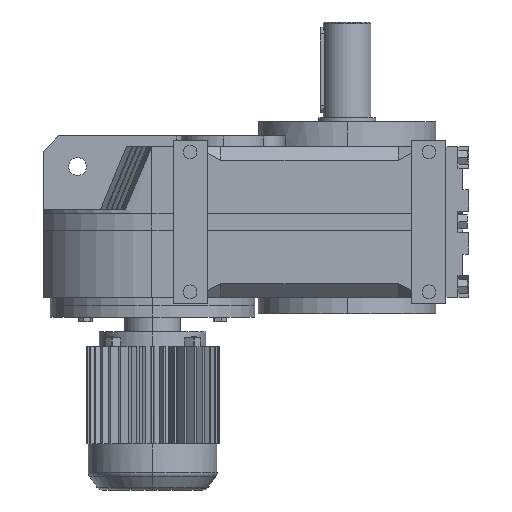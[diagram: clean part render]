
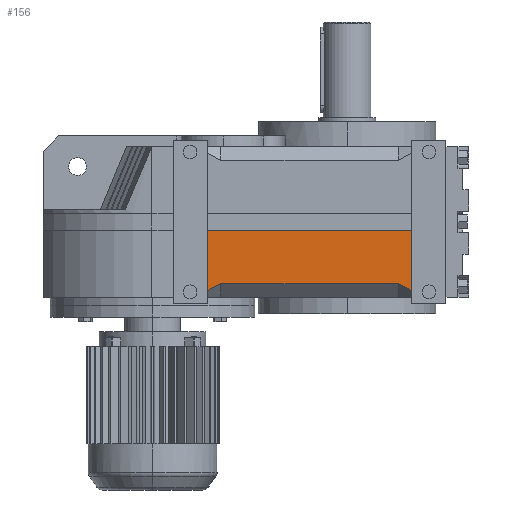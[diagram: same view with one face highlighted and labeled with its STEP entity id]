
A CAD part, left-side view. The second image highlights one B-rep face of the part: STEP entity #156.
In plain terms, the highlighted planar face has unit normal (-1, 0, 0).
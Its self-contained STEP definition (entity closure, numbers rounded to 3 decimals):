
#51 = PLANE('',#52);
#52 = AXIS2_PLACEMENT_3D('',#53,#54,#55);
#53 = CARTESIAN_POINT('',(-166.747,-80.,-1.347));
#54 = DIRECTION('',(0.664,0.342,0.664));
#55 = DIRECTION('',(0.707,0.,-0.707)
  );
#76 = VERTEX_POINT('',#77);
#77 = CARTESIAN_POINT('',(-190.4,-100.,32.6));
#91 = PLANE('',#92);
#92 = AXIS2_PLACEMENT_3D('',#93,#94,#95);
#93 = CARTESIAN_POINT('',(-190.4,-463.,32.6));
#94 = DIRECTION('',(0.707,0.,0.707));
#95 = DIRECTION('',(0.707,0.,-0.707));
#103 = EDGE_CURVE('',#104,#76,#106,.T.);
#104 = VERTEX_POINT('',#105);
#105 = CARTESIAN_POINT('',(-190.4,-80.,22.305));
#106 = SURFACE_CURVE('',#107,(#111,#118),.PCURVE_S1.);
#107 = LINE('',#108,#109);
#108 = CARTESIAN_POINT('',(-190.4,-468.678,222.37));
#109 = VECTOR('',#110,1.);
#110 = DIRECTION('',(0.,-0.889,0.458));
#111 = PCURVE('',#51,#112);
#112 = DEFINITIONAL_REPRESENTATION('',(#113),#117);
#113 = LINE('',#114,#115);
#114 = CARTESIAN_POINT('',(-174.917,-413.622));
#115 = VECTOR('',#116,1.);
#116 = DIRECTION('',(-0.324,-0.946));
#117 = ( GEOMETRIC_REPRESENTATION_CONTEXT(2) 
PARAMETRIC_REPRESENTATION_CONTEXT() REPRESENTATION_CONTEXT('2D SPACE',''
  ) );
#118 = PCURVE('',#119,#124);
#119 = PLANE('',#120);
#120 = AXIS2_PLACEMENT_3D('',#121,#122,#123);
#121 = CARTESIAN_POINT('',(-190.4,-463.,233.4));
#122 = DIRECTION('',(1.,0.,0.));
#123 = DIRECTION('',(0.,0.,-1.));
#124 = DEFINITIONAL_REPRESENTATION('',(#125),#129);
#125 = LINE('',#126,#127);
#126 = CARTESIAN_POINT('',(11.03,-5.678));
#127 = VECTOR('',#128,1.);
#128 = DIRECTION('',(-0.458,-0.889));
#129 = ( GEOMETRIC_REPRESENTATION_CONTEXT(2) 
PARAMETRIC_REPRESENTATION_CONTEXT() REPRESENTATION_CONTEXT('2D SPACE',''
  ) );
#145 = PLANE('',#146);
#146 = AXIS2_PLACEMENT_3D('',#147,#148,#149);
#147 = CARTESIAN_POINT('',(-162.4,-80.,3.));
#148 = DIRECTION('',(0.,-1.,0.));
#149 = DIRECTION('',(0.,0.,-1.));
#156 = ADVANCED_FACE('',(#157),#119,.F.);
#157 = FACE_BOUND('',#158,.T.);
#158 = EDGE_LOOP('',(#159,#182,#183,#206,#234,#262));
#159 = ORIENTED_EDGE('',*,*,#160,.T.);
#160 = EDGE_CURVE('',#161,#104,#163,.T.);
#161 = VERTEX_POINT('',#162);
#162 = CARTESIAN_POINT('',(-190.4,-80.,111.));
#163 = SURFACE_CURVE('',#164,(#168,#175),.PCURVE_S1.);
#164 = LINE('',#165,#166);
#165 = CARTESIAN_POINT('',(-190.4,-80.,233.4));
#166 = VECTOR('',#167,1.);
#167 = DIRECTION('',(0.,0.,-1.));
#168 = PCURVE('',#119,#169);
#169 = DEFINITIONAL_REPRESENTATION('',(#170),#174);
#170 = LINE('',#171,#172);
#171 = CARTESIAN_POINT('',(0.,383.));
#172 = VECTOR('',#173,1.);
#173 = DIRECTION('',(1.,0.));
#174 = ( GEOMETRIC_REPRESENTATION_CONTEXT(2) 
PARAMETRIC_REPRESENTATION_CONTEXT() REPRESENTATION_CONTEXT('2D SPACE',''
  ) );
#175 = PCURVE('',#145,#176);
#176 = DEFINITIONAL_REPRESENTATION('',(#177),#181);
#177 = LINE('',#178,#179);
#178 = CARTESIAN_POINT('',(-230.4,-28.));
#179 = VECTOR('',#180,1.);
#180 = DIRECTION('',(1.,0.));
#181 = ( GEOMETRIC_REPRESENTATION_CONTEXT(2) 
PARAMETRIC_REPRESENTATION_CONTEXT() REPRESENTATION_CONTEXT('2D SPACE',''
  ) );
#182 = ORIENTED_EDGE('',*,*,#103,.T.);
#183 = ORIENTED_EDGE('',*,*,#184,.T.);
#184 = EDGE_CURVE('',#76,#185,#187,.T.);
#185 = VERTEX_POINT('',#186);
#186 = CARTESIAN_POINT('',(-190.4,-360.,32.6));
#187 = SURFACE_CURVE('',#188,(#192,#199),.PCURVE_S1.);
#188 = LINE('',#189,#190);
#189 = CARTESIAN_POINT('',(-190.4,-463.,32.6));
#190 = VECTOR('',#191,1.);
#191 = DIRECTION('',(0.,-1.,0.));
#192 = PCURVE('',#119,#193);
#193 = DEFINITIONAL_REPRESENTATION('',(#194),#198);
#194 = LINE('',#195,#196);
#195 = CARTESIAN_POINT('',(200.8,0.));
#196 = VECTOR('',#197,1.);
#197 = DIRECTION('',(0.,-1.));
#198 = ( GEOMETRIC_REPRESENTATION_CONTEXT(2) 
PARAMETRIC_REPRESENTATION_CONTEXT() REPRESENTATION_CONTEXT('2D SPACE',''
  ) );
#199 = PCURVE('',#91,#200);
#200 = DEFINITIONAL_REPRESENTATION('',(#201),#205);
#201 = LINE('',#202,#203);
#202 = CARTESIAN_POINT('',(0.,0.));
#203 = VECTOR('',#204,1.);
#204 = DIRECTION('',(0.,-1.));
#205 = ( GEOMETRIC_REPRESENTATION_CONTEXT(2) 
PARAMETRIC_REPRESENTATION_CONTEXT() REPRESENTATION_CONTEXT('2D SPACE',''
  ) );
#206 = ORIENTED_EDGE('',*,*,#207,.T.);
#207 = EDGE_CURVE('',#185,#208,#210,.T.);
#208 = VERTEX_POINT('',#209);
#209 = CARTESIAN_POINT('',(-190.4,-380.,22.305));
#210 = SURFACE_CURVE('',#211,(#215,#222),.PCURVE_S1.);
#211 = LINE('',#212,#213);
#212 = CARTESIAN_POINT('',(-190.4,-359.717,32.746));
#213 = VECTOR('',#214,1.);
#214 = DIRECTION('',(0.,-0.889,-0.458));
#215 = PCURVE('',#119,#216);
#216 = DEFINITIONAL_REPRESENTATION('',(#217),#221);
#217 = LINE('',#218,#219);
#218 = CARTESIAN_POINT('',(200.654,103.283));
#219 = VECTOR('',#220,1.);
#220 = DIRECTION('',(0.458,-0.889));
#221 = ( GEOMETRIC_REPRESENTATION_CONTEXT(2) 
PARAMETRIC_REPRESENTATION_CONTEXT() REPRESENTATION_CONTEXT('2D SPACE',''
  ) );
#222 = PCURVE('',#223,#228);
#223 = PLANE('',#224);
#224 = AXIS2_PLACEMENT_3D('',#225,#226,#227);
#225 = CARTESIAN_POINT('',(-166.747,-380.,-1.347));
#226 = DIRECTION('',(0.664,-0.342,0.664));
#227 = DIRECTION('',(0.707,0.,-0.707));
#228 = DEFINITIONAL_REPRESENTATION('',(#229),#233);
#229 = LINE('',#230,#231);
#230 = CARTESIAN_POINT('',(-40.832,21.585));
#231 = VECTOR('',#232,1.);
#232 = DIRECTION('',(0.324,-0.946));
#233 = ( GEOMETRIC_REPRESENTATION_CONTEXT(2) 
PARAMETRIC_REPRESENTATION_CONTEXT() REPRESENTATION_CONTEXT('2D SPACE',''
  ) );
#234 = ORIENTED_EDGE('',*,*,#235,.T.);
#235 = EDGE_CURVE('',#208,#236,#238,.T.);
#236 = VERTEX_POINT('',#237);
#237 = CARTESIAN_POINT('',(-190.4,-380.,111.));
#238 = SURFACE_CURVE('',#239,(#243,#250),.PCURVE_S1.);
#239 = LINE('',#240,#241);
#240 = CARTESIAN_POINT('',(-190.4,-380.,233.4));
#241 = VECTOR('',#242,1.);
#242 = DIRECTION('',(0.,0.,1.));
#243 = PCURVE('',#119,#244);
#244 = DEFINITIONAL_REPRESENTATION('',(#245),#249);
#245 = LINE('',#246,#247);
#246 = CARTESIAN_POINT('',(0.,83.));
#247 = VECTOR('',#248,1.);
#248 = DIRECTION('',(-1.,0.));
#249 = ( GEOMETRIC_REPRESENTATION_CONTEXT(2) 
PARAMETRIC_REPRESENTATION_CONTEXT() REPRESENTATION_CONTEXT('2D SPACE',''
  ) );
#250 = PCURVE('',#251,#256);
#251 = PLANE('',#252);
#252 = AXIS2_PLACEMENT_3D('',#253,#254,#255);
#253 = CARTESIAN_POINT('',(-162.4,-380.,3.));
#254 = DIRECTION('',(0.,1.,0.));
#255 = DIRECTION('',(0.,0.,1.));
#256 = DEFINITIONAL_REPRESENTATION('',(#257),#261);
#257 = LINE('',#258,#259);
#258 = CARTESIAN_POINT('',(230.4,-28.));
#259 = VECTOR('',#260,1.);
#260 = DIRECTION('',(1.,0.));
#261 = ( GEOMETRIC_REPRESENTATION_CONTEXT(2) 
PARAMETRIC_REPRESENTATION_CONTEXT() REPRESENTATION_CONTEXT('2D SPACE',''
  ) );
#262 = ORIENTED_EDGE('',*,*,#263,.T.);
#263 = EDGE_CURVE('',#236,#161,#264,.T.);
#264 = SURFACE_CURVE('',#265,(#269,#276),.PCURVE_S1.);
#265 = LINE('',#266,#267);
#266 = CARTESIAN_POINT('',(-190.4,-463.,111.));
#267 = VECTOR('',#268,1.);
#268 = DIRECTION('',(0.,1.,0.));
#269 = PCURVE('',#119,#270);
#270 = DEFINITIONAL_REPRESENTATION('',(#271),#275);
#271 = LINE('',#272,#273);
#272 = CARTESIAN_POINT('',(122.4,0.));
#273 = VECTOR('',#274,1.);
#274 = DIRECTION('',(0.,1.));
#275 = ( GEOMETRIC_REPRESENTATION_CONTEXT(2) 
PARAMETRIC_REPRESENTATION_CONTEXT() REPRESENTATION_CONTEXT('2D SPACE',''
  ) );
#276 = PCURVE('',#277,#282);
#277 = PLANE('',#278);
#278 = AXIS2_PLACEMENT_3D('',#279,#280,#281);
#279 = CARTESIAN_POINT('',(-14.299,1.,111.));
#280 = DIRECTION('',(0.,0.,-1.));
#281 = DIRECTION('',(-1.,0.,0.));
#282 = DEFINITIONAL_REPRESENTATION('',(#283),#287);
#283 = LINE('',#284,#285);
#284 = CARTESIAN_POINT('',(176.101,-464.));
#285 = VECTOR('',#286,1.);
#286 = DIRECTION('',(0.,1.));
#287 = ( GEOMETRIC_REPRESENTATION_CONTEXT(2) 
PARAMETRIC_REPRESENTATION_CONTEXT() REPRESENTATION_CONTEXT('2D SPACE',''
  ) );
